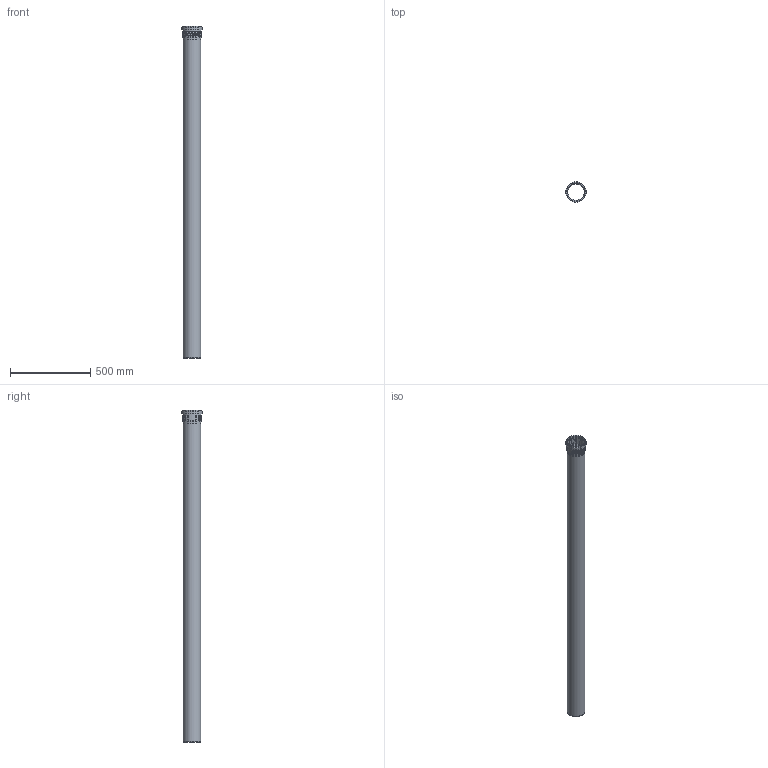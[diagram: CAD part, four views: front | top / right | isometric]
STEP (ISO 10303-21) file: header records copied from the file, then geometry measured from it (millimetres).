
FILE_DESCRIPTION(/* description */ (''),/* implementation_level */ '2;1');
FILE_NAME(/* name */ 'Z:\Geberit\Export\NewStep\390506.stp',/* time_stamp */ '2014-04-02T08:13:54+02:00',/* author */ ('ML'),/* organization */ (''),/* preprocessor_version */ 'ST-DEVELOPER v15.2',/* originating_system */ 'Autodesk Inventor 2014',/* authorisation */ '');
FILE_SCHEMA (('AUTOMOTIVE_DESIGN { 1 0 10303 214 3 1 1 }'));
Length unit declared in the file: millimetre
Products named in the file (3): 861443; 861585ohne; 390506
Bounding box: 127.4 x 127.4 x 2068.1 mm (x, y, z)
Volume: 2528830.1 mm3; surface area: 1411146 mm2
Topology: 2 solids, 2 shells, 47 faces, 104 edges, 71 vertices
Faces by surface type: torus 24, cylinder 11, plane 10, cone 2
Full cylindrical faces by diameter (mm): 103 x2, 110.2 x2, 111.1 x2, 114.7 x1, 118.3 x2, 120.2 x1, 127.4 x1
Entity records: 2003 total; most frequent: CARTESIAN_POINT 962, DIRECTION 182, ORIENTED_EDGE 174, AXIS2_PLACEMENT_3D 91, EDGE_CURVE 87, EDGE_LOOP 78, VERTEX_POINT 71, STYLED_ITEM 49
